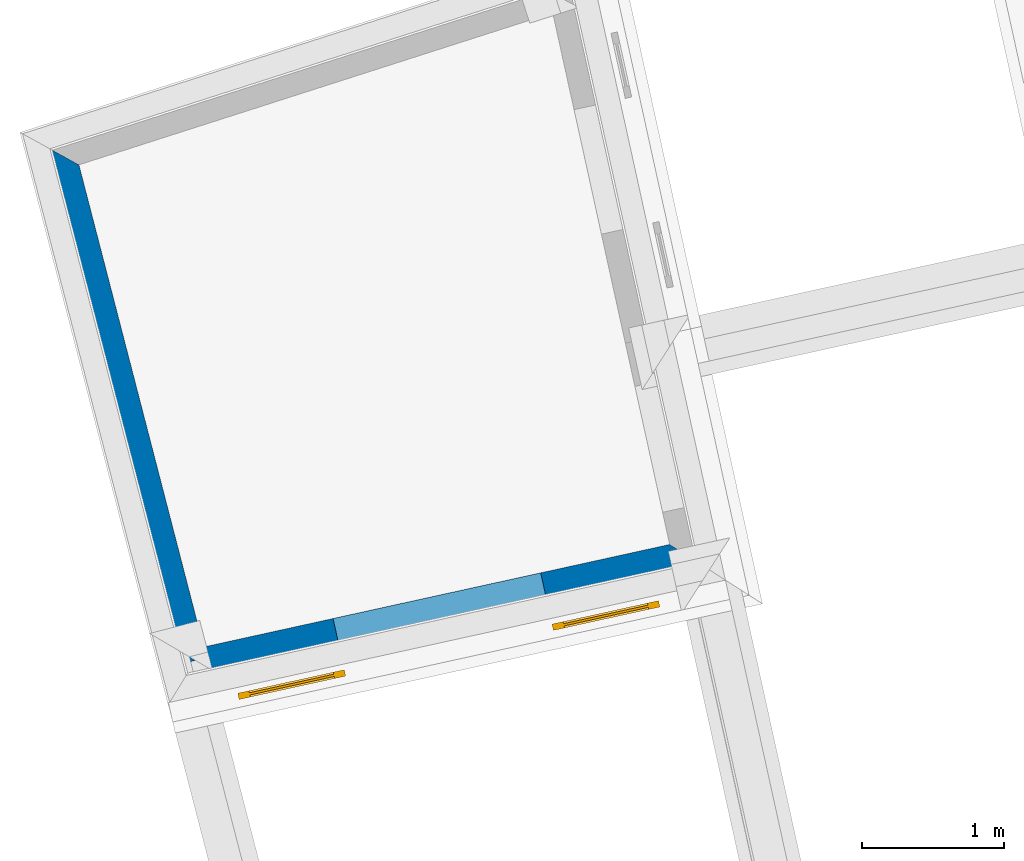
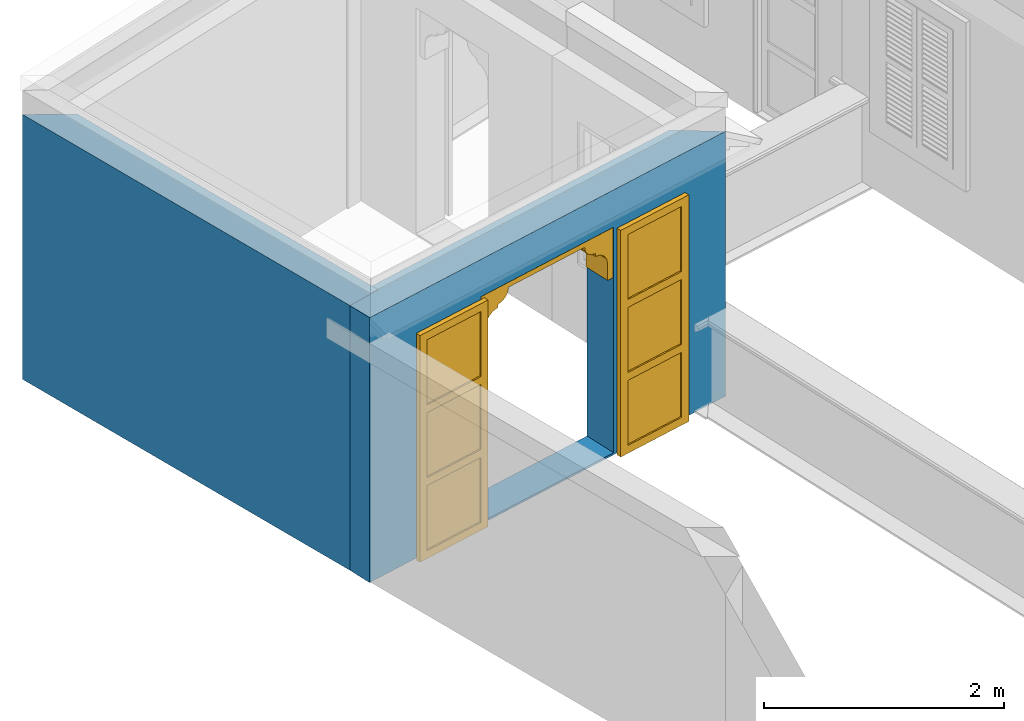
# One storey, part 9 of 17: 2 walls, 1 door, 1 opening.
"""IFC4 building model written with IfcOpenShell, lengths in metres."""

from ifc_helpers import new_model, si_unit, frame, origin, origin_with_axes, place, context, subcontext, project, spatial, polyline, outline, extrude, faceted_brep, source, transform, mapped, material, layer, layer_set, layer_usage, type_object, type_shapes, element, fill, save


model = new_model("IFC4")

# Units and contexts
model_context = context("Model", 3, world=origin_with_axes())
body_context = subcontext(model_context, "Body", "Model", "MODEL_VIEW")
ifc_project = project(units=[si_unit("PLANEANGLEUNIT", "RADIAN"), si_unit("MASSUNIT", "GRAM", prefix="KILO"), si_unit("FORCEUNIT", "NEWTON", prefix="KILO"), si_unit("LENGTHUNIT", "METRE"), si_unit("AREAUNIT", "SQUARE_METRE"), si_unit("VOLUMEUNIT", "CUBIC_METRE")], contexts=[model_context, model_context])

# Site, building, storey
site_placement = place(None, origin_with_axes())
site = spatial("IfcSite", under=ifc_project, at=site_placement, Name="Site plot-2", CompositionType="ELEMENT")
building_placement = place(None, origin_with_axes())
building = spatial("IfcBuilding", under=site, at=building_placement, Name="Building plot-2", CompositionType="ELEMENT")
storey_placement = place(None, frame((0.0, 0.0, 2.85), z_axis=(0.0, 0.0, 1.0), x_axis=(1.0, 0.0, 0.0)))
storey = spatial("IfcBuildingStorey", under=building, at=storey_placement, Name="plot-2 1", CompositionType="ELEMENT", Elevation=2.85)

# Wall, opening, door
ifc_material_1 = material(Name="Masonry")
ifc_layer_1 = layer(ifc_material_1, 0.33, ventilated=False)
ifc_layer_set_1 = layer_set([ifc_layer_1], Name="exterior_0.08_0.25")
ifc_layer_usage_1 = layer_usage(ifc_layer_set_1, "AXIS2", "POSITIVE", -0.25)
wall_type_1 = type_object("IfcWallType", Name="exterior_0.08_0.25", PredefinedType="SOLIDWALL", material=ifc_layer_set_1)
wall_1_placement = place(storey_placement, frame((9.00451836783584, 10.3235043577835, 0.0), z_axis=(0.0, 0.0, 1.0), x_axis=(0.97665610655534, 0.214808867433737, 0.0)))
wall_1 = element("IfcWall", 1, at=wall_1_placement, inside=storey, type_object=wall_type_1, material=ifc_layer_usage_1, Name="exterior", context=body_context, shape_type="SweptSolid", body=[
    extrude(outline(polyline([(-0.250000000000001, 0.0799999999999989), (-0.249999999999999, -0.25), (3.77361548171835, -0.25), (3.44361548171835, 0.0800000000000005), (-0.250000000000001, 0.0799999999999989)])), origin_with_axes(), (0.0, 0.0, 1.0), 2.7),
])
opening_placement = place(wall_1_placement, frame((1.01180774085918, 0.0, 0.02)))
opening = element("IfcOpeningElement", 2, at=opening_placement, cuts=wall_1, Name="My Opening", ObjectType="Opening", context=body_context, shape_type="SweptSolid", body=[
    extrude(outline(polyline([(0.0, -0.270000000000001), (1.5, -0.270000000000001), (1.5, 1.1), (-4.44089209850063e-16, 1.1), (0.0, -0.270000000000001)])), origin_with_axes(), (0.0, 0.0, 1.0), 2.3),
])
door_type = type_object("IfcDoorType", Name="arch-1500x2300", OperationType="SINGLE_SWING_LEFT", PredefinedType="NOTDEFINED")
shared_shape = source(origin(), body_context, "Body", "Brep", [
    faceted_brep([(-0.08, -0.02, 0.08), (-0.08, -0.02, 0.0), (-0.69, -0.02, 0.0), (-0.69, -0.02, 0.08), (-0.77, -0.02, 0.0), (-0.77, -0.02, 0.08), (-0.69, -0.035, 0.08), (-0.08, -0.035, 0.08), (0.0, -0.02, 0.08), (0.0, -0.02, 0.0), (-0.08, -0.066, 0.0), (-0.69, -0.066, 0.0), (-0.77, -0.066, 0.0), (-0.77, -0.066, 0.08), (-0.69, -0.02, 0.743333), (-0.77, -0.02, 0.743333), (-0.69, -0.035, 0.743333), (-0.08, -0.035, 0.743333), (-0.08, -0.02, 0.743333), (0.0, -0.02, 0.743333), (0.0, -0.066, 0.08), (0.0, -0.066, 0.0), (-0.69, -0.066, 0.08), (-0.08, -0.066, 0.08), (-0.77, -0.066, 0.743333), (-0.69, -0.02, 0.823333), (-0.77, -0.02, 0.823333), (0.0, -0.066, 0.743333), (0.0, -0.02, 0.823333), (-0.08, -0.02, 0.823333), (-0.08, -0.051, 0.08), (-0.69, -0.051, 0.08), (-0.69, -0.066, 0.743333), (-0.77, -0.066, 0.823333), (-0.69, -0.02, 1.486667), (-0.77, -0.02, 1.486667), (0.0, -0.066, 0.823333), (-0.08, -0.066, 0.743333), (0.0, -0.02, 1.486667), (-0.08, -0.02, 1.486667), (-0.08, -0.051, 0.743333), (-0.69, -0.051, 0.743333), (-0.69, -0.066, 0.823333), (-0.77, -0.066, 1.486667), (-0.69, -0.035, 0.823333), (-0.08, -0.035, 0.823333), (-0.69, -0.035, 1.486667), (-0.69, -0.02, 1.566667), (-0.77, -0.02, 1.566667), (0.0, -0.066, 1.486667), (-0.08, -0.066, 0.823333), (-0.08, -0.035, 1.486667), (0.0, -0.02, 1.566667), (-0.08, -0.02, 1.566667), (-0.69, -0.066, 1.486667), (-0.77, -0.066, 1.566667), (-0.69, -0.02, 2.23), (-0.77, -0.02, 2.23), (0.0, -0.066, 1.566667), (-0.08, -0.066, 1.486667), (0.0, -0.02, 2.23), (-0.08, -0.02, 2.23), (-0.08, -0.051, 0.823333), (-0.69, -0.051, 0.823333), (-0.69, -0.051, 1.486667), (-0.69, -0.066, 1.566667), (-0.77, -0.066, 2.23), (-0.69, -0.035, 1.566667), (-0.08, -0.035, 1.566667), (-0.69, -0.035, 2.23), (-0.69, -0.02, 2.31), (-0.77, -0.02, 2.31), (0.0, -0.066, 2.23), (-0.08, -0.066, 1.566667), (-0.08, -0.051, 1.486667), (-0.08, -0.035, 2.23), (0.0, -0.02, 2.31), (-0.08, -0.02, 2.31), (-0.69, -0.066, 2.23), (-0.77, -0.066, 2.31), (-0.69, -0.066, 2.31), (0.0, -0.066, 2.31), (-0.08, -0.066, 2.23), (-0.08, -0.066, 2.31), (-0.08, -0.051, 1.566667), (-0.69, -0.051, 1.566667), (-0.69, -0.051, 2.23), (-0.08, -0.051, 2.23), (2.19, -0.02, 0.08), (2.19, -0.02, 0.0), (1.58, -0.02, 0.0), (1.58, -0.02, 0.08), (2.27, -0.02, 0.08), (2.27, -0.02, 0.0), (1.58, -0.035, 0.08), (2.19, -0.035, 0.08), (1.5, -0.02, 0.0), (1.5, -0.02, 0.08), (2.19, -0.066, 0.0), (1.58, -0.066, 0.0), (2.27, -0.066, 0.08), (2.27, -0.066, 0.0), (2.27, -0.02, 0.743333), (2.19, -0.02, 0.743333), (2.19, -0.035, 0.743333), (1.58, -0.035, 0.743333), (1.58, -0.02, 0.743333), (1.5, -0.02, 0.743333), (1.5, -0.066, 0.0), (1.5, -0.066, 0.08), (1.58, -0.066, 0.08), (2.19, -0.066, 0.08), (2.27, -0.066, 0.743333), (2.27, -0.02, 0.823333), (2.19, -0.02, 0.823333), (1.5, -0.066, 0.743333), (1.58, -0.02, 0.823333), (1.5, -0.02, 0.823333), (2.19, -0.051, 0.08), (1.58, -0.051, 0.08), (2.19, -0.066, 0.743333), (2.27, -0.066, 0.823333), (2.27, -0.02, 1.486667), (2.19, -0.02, 1.486667), (1.5, -0.066, 0.823333), (1.58, -0.066, 0.743333), (1.58, -0.02, 1.486667), (1.5, -0.02, 1.486667), (1.58, -0.051, 0.743333), (2.19, -0.051, 0.743333), (2.19, -0.066, 0.823333), (2.27, -0.066, 1.486667), (1.58, -0.035, 0.823333), (2.19, -0.035, 0.823333), (2.19, -0.035, 1.486667), (2.27, -0.02, 1.566667), (2.19, -0.02, 1.566667), (1.5, -0.066, 1.486667), (1.58, -0.066, 0.823333), (1.58, -0.035, 1.486667), (1.58, -0.02, 1.566667), (1.5, -0.02, 1.566667), (2.19, -0.066, 1.486667), (2.27, -0.066, 1.566667), (2.27, -0.02, 2.23), (2.19, -0.02, 2.23), (1.5, -0.066, 1.566667), (1.58, -0.066, 1.486667), (1.58, -0.02, 2.23), (1.5, -0.02, 2.23), (2.19, -0.051, 0.823333), (1.58, -0.051, 0.823333), (2.19, -0.051, 1.486667), (2.19, -0.066, 1.566667), (2.27, -0.066, 2.23), (1.58, -0.035, 1.566667), (2.19, -0.035, 1.566667), (2.19, -0.035, 2.23), (2.27, -0.02, 2.31), (2.19, -0.02, 2.31), (1.5, -0.066, 2.23), (1.58, -0.066, 1.566667), (1.58, -0.051, 1.486667), (1.58, -0.035, 2.23), (1.58, -0.02, 2.31), (1.5, -0.02, 2.31), (2.19, -0.066, 2.23), (2.27, -0.066, 2.31), (2.19, -0.066, 2.31), (1.5, -0.066, 2.31), (1.58, -0.066, 2.23), (1.58, -0.066, 2.31), (2.19, -0.051, 1.566667), (1.58, -0.051, 1.566667), (2.19, -0.051, 2.23), (1.58, -0.051, 2.23), (1.5, 0.03, 1.78), (1.5, 0.03, 1.95), (1.44, 0.03, 1.95), (1.44, 0.03, 1.78), (1.44, 0.3, 1.95), (1.44, 0.3, 1.78), (1.5, 0.03, 2.12), (1.429, 0.03, 2.004), (1.5, 0.3, 1.78), (1.5, 0.3, 1.95), (1.429, 0.3, 2.004), (1.399, 0.03, 2.049), (1.5, 0.3, 2.12), (1.399, 0.3, 2.049), (1.354, 0.03, 2.079), (1.5, 0.3, 2.29), (1.5, 0.03, 2.29), (1.354, 0.3, 2.079), (1.3, 0.03, 2.09), (1.3, 0.03, 2.12), (1.254, 0.03, 2.129), (1.18, 0.3, 2.29), (1.18, 0.03, 2.29), (1.3, 0.3, 2.12), (1.254, 0.3, 2.129), (1.3, 0.3, 2.09), (1.215, 0.03, 2.155), (1.189, 0.3, 2.194), (1.18, 0.3, 2.24), (1.18, 0.03, 2.24), (1.189, 0.03, 2.194), (1.215, 0.3, 2.155), (0.06, 0.03, 1.78), (0.06, 0.03, 1.95), (0.0, 0.03, 1.95), (0.0, 0.03, 1.78), (0.06, 0.3, 1.78), (0.06, 0.3, 1.95), (0.071, 0.03, 2.004), (0.0, 0.03, 2.12), (0.0, 0.3, 1.95), (0.0, 0.3, 1.78), (0.071, 0.3, 2.004), (0.101, 0.03, 2.049), (0.0, 0.3, 2.12), (0.101, 0.3, 2.049), (0.146, 0.03, 2.079), (0.0, 0.03, 2.29), (0.0, 0.3, 2.29), (0.146, 0.3, 2.079), (0.2, 0.03, 2.12), (0.2, 0.03, 2.09), (0.246, 0.03, 2.129), (0.32, 0.03, 2.29), (0.32, 0.3, 2.29), (0.246, 0.3, 2.129), (0.2, 0.3, 2.12), (0.2, 0.3, 2.09), (0.285, 0.03, 2.155), (0.32, 0.3, 2.24), (0.311, 0.3, 2.194), (0.311, 0.03, 2.194), (0.32, 0.03, 2.24), (0.285, 0.3, 2.155)], [[[0, 1, 2, 3]], [[4, 5, 3, 2]], [[0, 3, 6, 7]], [[1, 0, 8, 9]], [[2, 1, 10, 11]], [[5, 4, 12, 13]], [[14, 3, 5, 15]], [[4, 2, 11, 12]], [[3, 14, 16, 6]], [[6, 16, 17, 7]], [[18, 0, 7, 17]], [[0, 18, 19, 8]], [[9, 8, 20, 21]], [[1, 9, 21, 10]], [[22, 11, 10, 23]], [[13, 12, 11, 22]], [[15, 5, 13, 24]], [[25, 14, 15, 26]], [[14, 18, 17, 16]], [[8, 19, 27, 20]], [[28, 19, 18, 29]], [[23, 10, 21, 20]], [[22, 23, 30, 31]], [[22, 32, 24, 13]], [[26, 15, 24, 33]], [[29, 18, 14, 25]], [[34, 25, 26, 35]], [[19, 28, 36, 27]], [[20, 27, 37, 23]], [[38, 28, 29, 39]], [[23, 37, 40, 30]], [[41, 31, 30, 40]], [[32, 22, 31, 41]], [[32, 42, 33, 24]], [[35, 26, 33, 43]], [[29, 25, 44, 45]], [[25, 34, 46, 44]], [[47, 34, 35, 48]], [[28, 38, 49, 36]], [[27, 36, 50, 37]], [[39, 29, 45, 51]], [[52, 38, 39, 53]], [[37, 32, 41, 40]], [[37, 50, 42, 32]], [[42, 54, 43, 33]], [[48, 35, 43, 55]], [[44, 46, 51, 45]], [[34, 39, 51, 46]], [[34, 47, 53, 39]], [[56, 47, 48, 57]], [[38, 52, 58, 49]], [[36, 49, 59, 50]], [[60, 52, 53, 61]], [[42, 50, 62, 63]], [[54, 42, 63, 64]], [[54, 65, 55, 43]], [[57, 48, 55, 66]], [[53, 47, 67, 68]], [[47, 56, 69, 67]], [[70, 56, 57, 71]], [[52, 60, 72, 58]], [[49, 58, 73, 59]], [[50, 59, 74, 62]], [[61, 53, 68, 75]], [[76, 60, 61, 77]], [[64, 63, 62, 74]], [[59, 54, 64, 74]], [[65, 54, 59, 73]], [[65, 78, 66, 55]], [[71, 57, 66, 79]], [[67, 69, 75, 68]], [[56, 61, 75, 69]], [[77, 61, 56, 70]], [[70, 71, 79, 80]], [[60, 76, 81, 72]], [[58, 72, 82, 73]], [[76, 77, 83, 81]], [[65, 73, 84, 85]], [[78, 65, 85, 86]], [[78, 80, 79, 66]], [[77, 70, 80, 83]], [[72, 81, 83, 82]], [[73, 82, 87, 84]], [[86, 85, 84, 87]], [[82, 78, 86, 87]], [[82, 83, 80, 78]], [[88, 89, 90, 91]], [[89, 88, 92, 93]], [[94, 95, 88, 91]], [[96, 97, 91, 90]], [[98, 99, 90, 89]], [[100, 101, 93, 92]], [[102, 92, 88, 103]], [[101, 98, 89, 93]], [[95, 104, 103, 88]], [[94, 105, 104, 95]], [[105, 94, 91, 106]], [[97, 107, 106, 91]], [[108, 109, 97, 96]], [[99, 108, 96, 90]], [[110, 99, 98, 111]], [[111, 98, 101, 100]], [[112, 100, 92, 102]], [[113, 102, 103, 114]], [[104, 105, 106, 103]], [[109, 115, 107, 97]], [[116, 106, 107, 117]], [[109, 108, 99, 110]], [[118, 119, 110, 111]], [[100, 112, 120, 111]], [[121, 112, 102, 113]], [[114, 103, 106, 116]], [[122, 113, 114, 123]], [[115, 124, 117, 107]], [[110, 125, 115, 109]], [[126, 116, 117, 127]], [[119, 128, 125, 110]], [[128, 119, 118, 129]], [[129, 118, 111, 120]], [[112, 121, 130, 120]], [[131, 121, 113, 122]], [[132, 133, 114, 116]], [[133, 134, 123, 114]], [[135, 122, 123, 136]], [[124, 137, 127, 117]], [[125, 138, 124, 115]], [[139, 132, 116, 126]], [[140, 126, 127, 141]], [[128, 129, 120, 125]], [[120, 130, 138, 125]], [[121, 131, 142, 130]], [[143, 131, 122, 135]], [[132, 139, 134, 133]], [[134, 139, 126, 123]], [[126, 140, 136, 123]], [[144, 135, 136, 145]], [[137, 146, 141, 127]], [[138, 147, 137, 124]], [[148, 140, 141, 149]], [[150, 151, 138, 130]], [[152, 150, 130, 142]], [[131, 143, 153, 142]], [[154, 143, 135, 144]], [[155, 156, 136, 140]], [[156, 157, 145, 136]], [[158, 144, 145, 159]], [[146, 160, 149, 141]], [[147, 161, 146, 137]], [[151, 162, 147, 138]], [[163, 155, 140, 148]], [[164, 148, 149, 165]], [[162, 151, 150, 152]], [[162, 152, 142, 147]], [[161, 147, 142, 153]], [[143, 154, 166, 153]], [[167, 154, 144, 158]], [[155, 163, 157, 156]], [[157, 163, 148, 145]], [[159, 145, 148, 164]], [[168, 167, 158, 159]], [[160, 169, 165, 149]], [[161, 170, 160, 146]], [[169, 171, 164, 165]], [[172, 173, 161, 153]], [[174, 172, 153, 166]], [[154, 167, 168, 166]], [[171, 168, 159, 164]], [[170, 171, 169, 160]], [[173, 175, 170, 161]], [[175, 173, 172, 174]], [[175, 174, 166, 170]], [[166, 168, 171, 170]], [[176, 177, 178, 179]], [[180, 181, 179, 178]], [[177, 182, 183, 178]], [[177, 176, 184, 185]], [[181, 184, 176, 179]], [[181, 180, 185, 184]], [[186, 180, 178, 183]], [[182, 187, 183]], [[182, 177, 185, 188]], [[180, 186, 188, 185]], [[189, 186, 183, 187]], [[182, 190, 187]], [[188, 191, 192, 182]], [[188, 186, 189]], [[193, 189, 187, 190]], [[194, 190, 182, 195]], [[182, 192, 196, 195]], [[192, 191, 197, 198]], [[199, 200, 191, 188]], [[188, 189, 193]], [[201, 193, 190, 194]], [[199, 201, 194, 195]], [[200, 199, 195, 196]], [[192, 202, 196]], [[191, 203, 204, 197]], [[192, 198, 205, 206]], [[207, 191, 200]], [[199, 188, 193, 201]], [[207, 200, 196, 202]], [[192, 206, 202]], [[204, 203, 206, 205]], [[203, 191, 207]], [[203, 207, 202, 206]], [[208, 209, 210, 211]], [[209, 208, 212, 213]], [[209, 214, 215, 210]], [[211, 210, 216, 217]], [[208, 211, 217, 212]], [[217, 216, 213, 212]], [[214, 209, 213, 218]], [[214, 219, 215]], [[220, 216, 210, 215]], [[216, 220, 218, 213]], [[219, 214, 218, 221]], [[219, 222, 215]], [[215, 223, 224, 220]], [[221, 218, 220]], [[222, 219, 221, 225]], [[226, 215, 222, 227]], [[226, 228, 223, 215]], [[229, 230, 224, 223]], [[220, 224, 231, 232]], [[225, 221, 220]], [[227, 222, 225, 233]], [[226, 227, 233, 232]], [[228, 226, 232, 231]], [[228, 234, 223]], [[230, 235, 236, 224]], [[237, 238, 229, 223]], [[231, 224, 239]], [[233, 225, 220, 232]], [[234, 228, 231, 239]], [[234, 237, 223]], [[238, 237, 236, 235]], [[239, 224, 236]], [[237, 234, 239, 236]], [[238, 235, 204, 205]], [[235, 230, 197, 204]], [[229, 238, 205, 198]], [[230, 229, 198, 197]]]),
])
type_shapes(door_type, [shared_shape])
door_placement = place(storey_placement, frame((10.050704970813, 10.2771524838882, 0.02), z_axis=(0.0, 0.0, 1.0), x_axis=(1.46498415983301, 0.322213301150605, 0.0)))
door = element("IfcDoor", 3, at=door_placement, inside=storey, type_object=door_type, Name="circulation sahn door", OverallHeight=2.3, OverallWidth=1.5, context=body_context, shape_type="MappedRepresentation", body=[
    mapped(shared_shape, transform((0.0, 0.0, 0.0), scale=1.0)),
])
fill(opening, door)

# Wall
ifc_material_2 = material(Name="Masonry")
ifc_layer_2 = layer(ifc_material_2, 0.33, ventilated=False)
ifc_layer_set_2 = layer_set([ifc_layer_2], Name="party_0.08_0.25")
ifc_layer_usage_2 = layer_usage(ifc_layer_set_2, "AXIS2", "POSITIVE", -0.25)
wall_type_2 = type_object("IfcWallType", Name="party_0.08_0.25", PredefinedType="SOLIDWALL", material=ifc_layer_set_2)
wall_2_placement = place(storey_placement, frame((8.085955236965, 13.8731701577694, 0.0), z_axis=(0.0, 0.0, 1.0), x_axis=(0.250522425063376, -0.968110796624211, 0.0)))
element("IfcWall", 4, at=wall_2_placement, inside=storey, type_object=wall_type_2, material=ifc_layer_usage_2, Name="party", context=body_context, shape_type="SweptSolid", body=[
    extrude(outline(polyline([(0.0755552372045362, 0.0799999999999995), (-0.236110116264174, -0.250000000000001), (3.66659044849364, -0.249999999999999), (3.66659044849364, 0.0800000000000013), (0.0755552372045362, 0.0799999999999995)])), origin_with_axes(), (0.0, 0.0, 1.0), 2.7),
])

save(model, "model.ifc")
